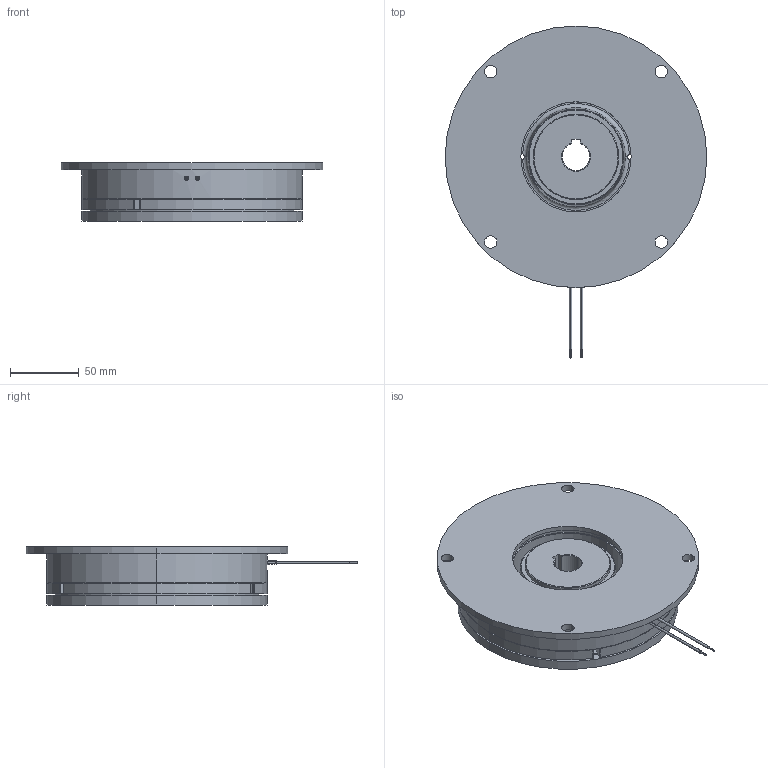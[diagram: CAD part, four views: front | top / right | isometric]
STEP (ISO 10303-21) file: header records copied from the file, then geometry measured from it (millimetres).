
FILE_DESCRIPTION (( 'STEP AP214' ), '1' );
FILE_NAME ('dr_bk_1002-120_mu.STEP', '2021-11-10T10:22:02', ( '' ), ( '' ), 'SwSTEP 2.0', 'SolidWorks 2019', '' );
FILE_SCHEMA (( 'AUTOMOTIVE_DESIGN' ));
Length unit declared in the file: millimetre
Products named in the file (10): 10068861_000; 10068701_000; 10068864_000_Einbaul„nge 5,6mm; 10068866_000; 10068864_000_Einbaul„nge 5,7mm; dr_bk_1002-120_mu; 10068863_000; 10068865_000; 10068868_000; 10068862_000
Assembly tree (18 placements, depth 4):
  dr_bk_1002-120_mu
    10068701_000
    10068868_000
      10068861_000
      10068866_000
        10068863_000
        10068862_000
        10068864_000_Einbaul„nge 5,6mm  x3
        10068865_000  x3
      10068864_000_Einbaul„nge 5,7mm  x3
      10068865_000  x3
Bounding box: 190 x 241 x 42.2 mm (x, y, z)
Volume: 785465 mm3; surface area: 185454.5 mm2
Topology: 18 solids, 18 shells, 554 faces, 1343 edges, 854 vertices
Faces by surface type: cylinder 184, plane 143, bspline 111, cone 80, torus 24, sphere 12
Entity records: 22152 total; most frequent: CARTESIAN_POINT 10545, ORIENTED_EDGE 2238, DIRECTION 1937, EDGE_CURVE 1119, VERTEX_POINT 726, AXIS2_PLACEMENT_3D 704, EDGE_LOOP 547, LINE 529
